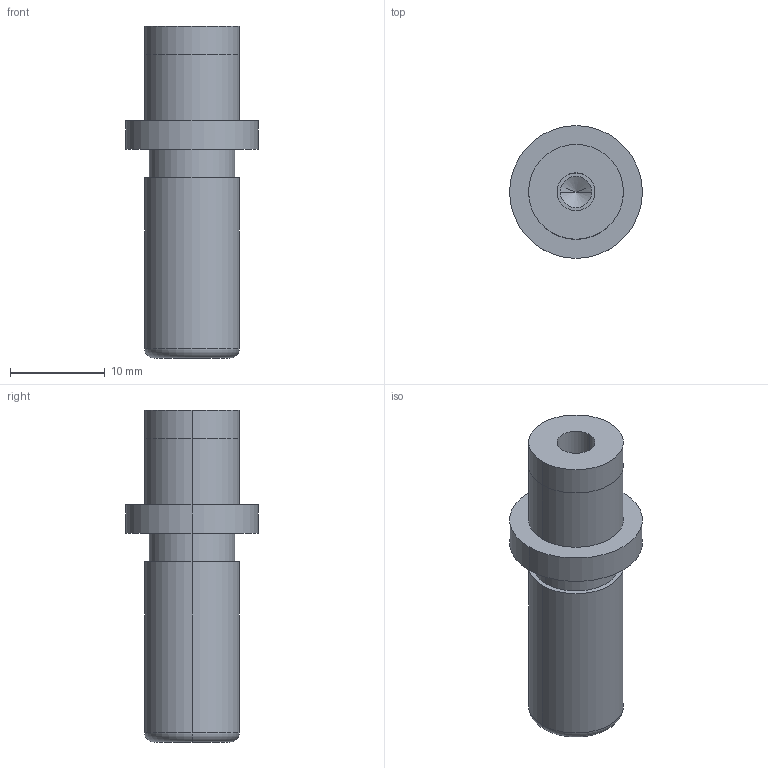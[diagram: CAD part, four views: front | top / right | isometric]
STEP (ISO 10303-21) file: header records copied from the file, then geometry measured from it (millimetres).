
FILE_DESCRIPTION(/* description */ (''),/* implementation_level */ '2;1');
FILE_NAME(/* name */ '3d_sgpw10-25_05272_r00.stp',/* time_stamp */ '2011-01-10T14:11:06+09:00',/* author */ ('MISUMI'),/* organization */ (''),/* preprocessor_version */ 'ST-DEVELOPER v11',/* originating_system */ 'UGS - NX 5.0',/* authorisation */ '');
FILE_SCHEMA (('CONFIG_CONTROL_DESIGN'));
Length unit declared in the file: millimetre
Products named in the file (1): 3d_sgpw10-25_05272_r00
Bounding box: 14 x 14 x 35 mm (x, y, z)
Volume: 2632.9 mm3; surface area: 1747.1 mm2
Topology: 1 solids, 1 shells, 31 faces, 64 edges, 38 vertices
Faces by surface type: cylinder 18, plane 7, cone 4, torus 2
Entity records: 890 total; most frequent: DIRECTION 162, CARTESIAN_POINT 130, ORIENTED_EDGE 120, AXIS2_PLACEMENT_3D 70, EDGE_CURVE 60, EDGE_LOOP 38, CIRCLE 38, VERTEX_POINT 38
